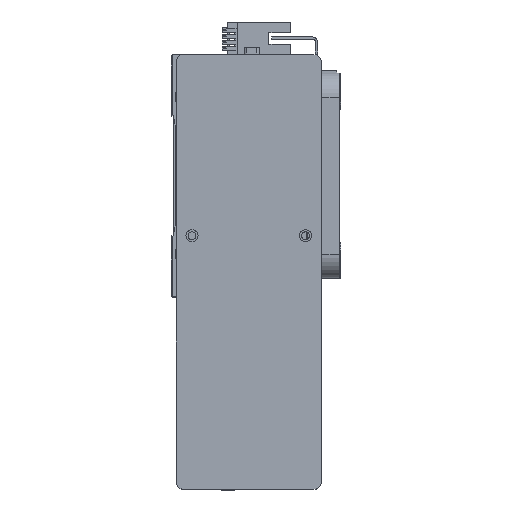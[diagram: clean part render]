
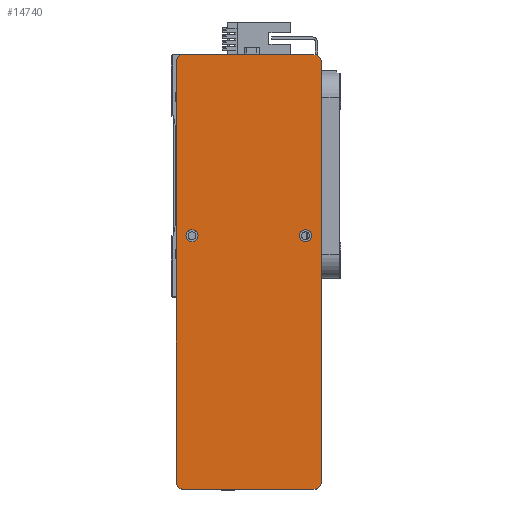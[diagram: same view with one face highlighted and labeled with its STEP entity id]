
A CAD part, top view. The second image highlights one B-rep face of the part: STEP entity #14740.
In plain terms, the highlighted planar face has unit normal (0, 0, 1) as drawn and (0, 0, -1) by its records, which use the part's own axes.
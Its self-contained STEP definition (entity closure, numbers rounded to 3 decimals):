
#525 = ORIENTED_EDGE ( 'NONE', *, *, #33085, .T. ) ;
#628 = DIRECTION ( 'NONE',  ( 1., 0., 0. ) ) ;
#737 = VERTEX_POINT ( 'NONE', #22504 ) ;
#872 = AXIS2_PLACEMENT_3D ( 'NONE', #48283, #23083, #52502 ) ;
#1346 = DIRECTION ( 'NONE',  ( -1., 0., 0. ) ) ;
#1367 = EDGE_CURVE ( 'NONE', #46288, #49550, #19360, .T. ) ;
#1842 = LINE ( 'NONE', #52343, #34083 ) ;
#2460 = DIRECTION ( 'NONE',  ( -1., 0., 0. ) ) ;
#3238 = CARTESIAN_POINT ( 'NONE',  ( 90., -30., 0. ) ) ;
#3609 = VECTOR ( 'NONE', #2460, 1000. ) ;
#3710 = EDGE_CURVE ( 'NONE', #19783, #22854, #24671, .T. ) ;
#3898 = CIRCLE ( 'NONE', #33453, 3. ) ;
#4110 = VERTEX_POINT ( 'NONE', #34755 ) ;
#4246 = EDGE_LOOP ( 'NONE', ( #46307, #42483 ) ) ;
#4775 = EDGE_CURVE ( 'NONE', #737, #46330, #23765, .T. ) ;
#5679 = DIRECTION ( 'NONE',  ( 0., 0., -1. ) ) ;
#5946 = CIRCLE ( 'NONE', #42518, 2.5 ) ;
#5956 = EDGE_CURVE ( 'NONE', #46330, #737, #5946, .T. ) ;
#6027 = FACE_OUTER_BOUND ( 'NONE', #47892, .T. ) ;
#8055 = CARTESIAN_POINT ( 'NONE',  ( 87., -27., 0. ) ) ;
#8708 = EDGE_CURVE ( 'NONE', #33532, #22854, #9624, .T. ) ;
#9016 = AXIS2_PLACEMENT_3D ( 'NONE', #30922, #5679, #35141 ) ;
#9344 = CARTESIAN_POINT ( 'NONE',  ( -90., 27., 0. ) ) ;
#9624 = CIRCLE ( 'NONE', #27198, 3. ) ;
#10144 = DIRECTION ( 'NONE',  ( 0., 0., -1. ) ) ;
#10654 = CARTESIAN_POINT ( 'NONE',  ( -87., -27., 0. ) ) ;
#12271 = DIRECTION ( 'NONE',  ( 1., 0., 0. ) ) ;
#13429 = CARTESIAN_POINT ( 'NONE',  ( 87., 30., 0. ) ) ;
#13532 = CARTESIAN_POINT ( 'NONE',  ( -15., -23.5, 0. ) ) ;
#13805 = ORIENTED_EDGE ( 'NONE', *, *, #1367, .F. ) ;
#14100 = VERTEX_POINT ( 'NONE', #46642 ) ;
#14428 = CARTESIAN_POINT ( 'NONE',  ( -87., 30., 0. ) ) ;
#14672 = CARTESIAN_POINT ( 'NONE',  ( -87., 27., 0. ) ) ;
#14740 = ADVANCED_FACE ( 'NONE', ( #38263, #15921, #6027 ), #42557, .F. ) ;
#14909 = DIRECTION ( 'NONE',  ( 1., 0., 0. ) ) ;
#14962 = ORIENTED_EDGE ( 'NONE', *, *, #20144, .T. ) ;
#15137 = CARTESIAN_POINT ( 'NONE',  ( 90., 30., 0. ) ) ;
#15811 = VERTEX_POINT ( 'NONE', #50133 ) ;
#15921 = FACE_BOUND ( 'NONE', #38319, .T. ) ;
#16995 = ORIENTED_EDGE ( 'NONE', *, *, #8708, .T. ) ;
#17198 = LINE ( 'NONE', #28392, #48170 ) ;
#17703 = DIRECTION ( 'NONE',  ( -1., 0., 0. ) ) ;
#17860 = EDGE_CURVE ( 'NONE', #39105, #19605, #40657, .T. ) ;
#18873 = DIRECTION ( 'NONE',  ( 1., 0., 0. ) ) ;
#19360 = CIRCLE ( 'NONE', #9016, 2.5 ) ;
#19605 = VERTEX_POINT ( 'NONE', #49071 ) ;
#19783 = VERTEX_POINT ( 'NONE', #13429 ) ;
#20144 = EDGE_CURVE ( 'NONE', #39105, #4110, #23321, .T. ) ;
#20336 = DIRECTION ( 'NONE',  ( 0., -1., 0. ) ) ;
#21769 = ORIENTED_EDGE ( 'NONE', *, *, #29340, .F. ) ;
#22504 = CARTESIAN_POINT ( 'NONE',  ( -12.5, 23.5, 0. ) ) ;
#22854 = VERTEX_POINT ( 'NONE', #14428 ) ;
#23083 = DIRECTION ( 'NONE',  ( 0., 0., -1. ) ) ;
#23237 = CARTESIAN_POINT ( 'NONE',  ( -17.5, 23.5, 0. ) ) ;
#23321 = CIRCLE ( 'NONE', #36241, 3. ) ;
#23765 = CIRCLE ( 'NONE', #872, 2.5 ) ;
#24647 = ORIENTED_EDGE ( 'NONE', *, *, #38876, .T. ) ;
#24671 = LINE ( 'NONE', #15137, #3609 ) ;
#25833 = DIRECTION ( 'NONE',  ( 0., 0., 1. ) ) ;
#26445 = CARTESIAN_POINT ( 'NONE',  ( -12.5, -23.5, 0. ) ) ;
#26533 = DIRECTION ( 'NONE',  ( 0., 0., -1. ) ) ;
#27198 = AXIS2_PLACEMENT_3D ( 'NONE', #14672, #44075, #18873 ) ;
#27407 = ORIENTED_EDGE ( 'NONE', *, *, #3710, .F. ) ;
#27572 = ORIENTED_EDGE ( 'NONE', *, *, #17860, .F. ) ;
#28392 = CARTESIAN_POINT ( 'NONE',  ( -90., -30., 0. ) ) ;
#29340 = EDGE_CURVE ( 'NONE', #15811, #4110, #1842, .T. ) ;
#29354 = CIRCLE ( 'NONE', #46139, 2.5 ) ;
#29469 = VECTOR ( 'NONE', #40898, 1000. ) ;
#30922 = CARTESIAN_POINT ( 'NONE',  ( -15., -23.5, 0. ) ) ;
#31406 = DIRECTION ( 'NONE',  ( 1., 0., 0. ) ) ;
#33085 = EDGE_CURVE ( 'NONE', #19783, #19605, #3898, .T. ) ;
#33453 = AXIS2_PLACEMENT_3D ( 'NONE', #35316, #10144, #39506 ) ;
#33478 = AXIS2_PLACEMENT_3D ( 'NONE', #10654, #40073, #14909 ) ;
#33532 = VERTEX_POINT ( 'NONE', #9344 ) ;
#34083 = VECTOR ( 'NONE', #31406, 1000. ) ;
#34755 = CARTESIAN_POINT ( 'NONE',  ( 87., -30., 0. ) ) ;
#35141 = DIRECTION ( 'NONE',  ( -1., 0., 0. ) ) ;
#35316 = CARTESIAN_POINT ( 'NONE',  ( 87., 27., 0. ) ) ;
#36241 = AXIS2_PLACEMENT_3D ( 'NONE', #8055, #37432, #12271 ) ;
#37432 = DIRECTION ( 'NONE',  ( 0., 0., -1. ) ) ;
#38253 = EDGE_CURVE ( 'NONE', #49550, #46288, #29354, .T. ) ;
#38263 = FACE_BOUND ( 'NONE', #4246, .T. ) ;
#38319 = EDGE_LOOP ( 'NONE', ( #13805, #52790 ) ) ;
#38876 = EDGE_CURVE ( 'NONE', #15811, #14100, #39729, .T. ) ;
#39105 = VERTEX_POINT ( 'NONE', #41896 ) ;
#39506 = DIRECTION ( 'NONE',  ( 1., 0., 0. ) ) ;
#39729 = CIRCLE ( 'NONE', #33478, 3. ) ;
#40073 = DIRECTION ( 'NONE',  ( 0., 0., -1. ) ) ;
#40657 = LINE ( 'NONE', #3238, #29469 ) ;
#40898 = DIRECTION ( 'NONE',  ( 0., 1., 0. ) ) ;
#40990 = ORIENTED_EDGE ( 'NONE', *, *, #44434, .F. ) ;
#41896 = CARTESIAN_POINT ( 'NONE',  ( 90., -27., 0. ) ) ;
#42483 = ORIENTED_EDGE ( 'NONE', *, *, #4775, .F. ) ;
#42518 = AXIS2_PLACEMENT_3D ( 'NONE', #51717, #26533, #1346 ) ;
#42557 = PLANE ( 'NONE',  #54502 ) ;
#42936 = DIRECTION ( 'NONE',  ( 0., 0., -1. ) ) ;
#44075 = DIRECTION ( 'NONE',  ( 0., 0., -1. ) ) ;
#44434 = EDGE_CURVE ( 'NONE', #33532, #14100, #17198, .T. ) ;
#46139 = AXIS2_PLACEMENT_3D ( 'NONE', #13532, #42936, #17703 ) ;
#46288 = VERTEX_POINT ( 'NONE', #47875 ) ;
#46307 = ORIENTED_EDGE ( 'NONE', *, *, #5956, .F. ) ;
#46330 = VERTEX_POINT ( 'NONE', #23237 ) ;
#46642 = CARTESIAN_POINT ( 'NONE',  ( -90., -27., 0. ) ) ;
#47875 = CARTESIAN_POINT ( 'NONE',  ( -17.5, -23.5, 0. ) ) ;
#47892 = EDGE_LOOP ( 'NONE', ( #27572, #14962, #21769, #24647, #40990, #16995, #27407, #525 ) ) ;
#48170 = VECTOR ( 'NONE', #20336, 1000. ) ;
#48283 = CARTESIAN_POINT ( 'NONE',  ( -15., 23.5, 0. ) ) ;
#49071 = CARTESIAN_POINT ( 'NONE',  ( 90., 27., 0. ) ) ;
#49550 = VERTEX_POINT ( 'NONE', #26445 ) ;
#50133 = CARTESIAN_POINT ( 'NONE',  ( -87., -30., 0. ) ) ;
#50985 = CARTESIAN_POINT ( 'NONE',  ( 0., 0., 0. ) ) ;
#51717 = CARTESIAN_POINT ( 'NONE',  ( -15., 23.5, 0. ) ) ;
#52343 = CARTESIAN_POINT ( 'NONE',  ( 90., -30., 0. ) ) ;
#52502 = DIRECTION ( 'NONE',  ( -1., 0., 0. ) ) ;
#52790 = ORIENTED_EDGE ( 'NONE', *, *, #38253, .F. ) ;
#54502 = AXIS2_PLACEMENT_3D ( 'NONE', #50985, #25833, #628 ) ;
